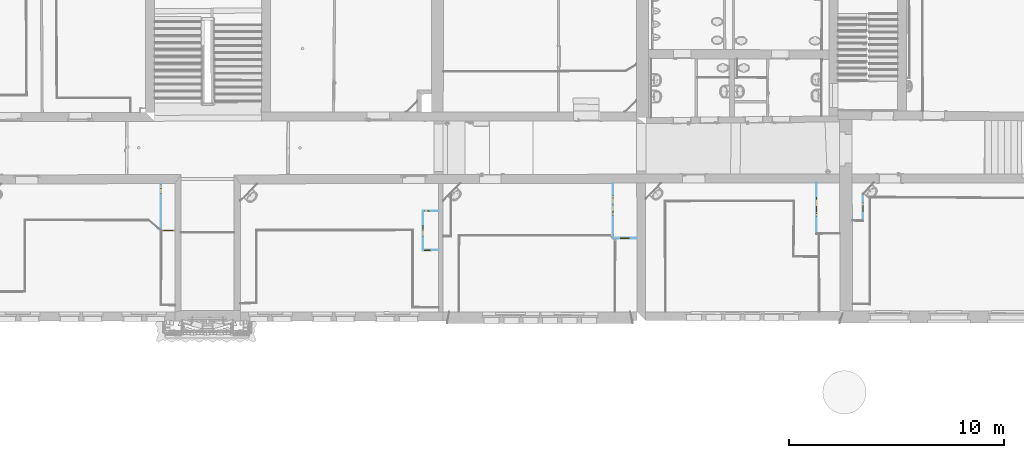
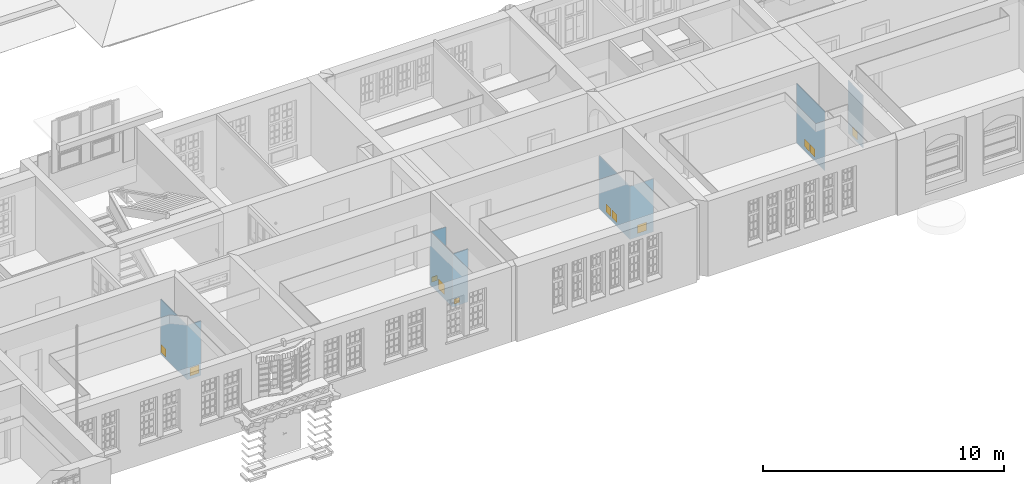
# One storey, part 88 of 158: 11 doors, 11 openings, plus 9 elements that do not belong to this part.
"""IFC2X3 building model written with IfcOpenShell, lengths in metres."""

from ifc_helpers import new_model, entity, si_unit, converted_unit, derived_unit, money_unit, direction, frame, origin_with_axes, origin_2d_with_axis, place, context, subcontext, project, spatial, polyline, rectangle, outline, extrude, faceted_brep, material, layer, layer_set, layer_usage, type_object, element, fill, save


model = new_model("IFC2X3")

# Units and contexts
model_context = context("Model", 3, precision=1e-05, world=origin_with_axes(), true_north=direction((0.0, 1.0)))
body_context = subcontext(model_context, "Body", "Model", "MODEL_VIEW")
ifc_project = project(units=[si_unit("LENGTHUNIT", "METRE"), si_unit("AREAUNIT", "SQUARE_METRE"), si_unit("VOLUMEUNIT", "CUBIC_METRE"), converted_unit("PLANEANGLEUNIT", "DEGREE", entity("IfcPlaneAngleMeasure", 0.0174532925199), si_unit("PLANEANGLEUNIT", "RADIAN"), dimensions=[0, 0, 0, 0, 0, 0, 0]), money_unit("EUR"), converted_unit("TIMEUNIT", "Year", entity("IfcTimeMeasure", 31556926.0), si_unit("TIMEUNIT", "SECOND"), dimensions=[0, 0, 1, 0, 0, 0, 0]), si_unit("MASSUNIT", "GRAM", prefix="KILO"), si_unit("THERMODYNAMICTEMPERATUREUNIT", "DEGREE_CELSIUS"), si_unit("LUMINOUSINTENSITYUNIT", "LUMEN"), si_unit("ENERGYUNIT", "JOULE", prefix="MEGA"), derived_unit("THERMALCONDUCTANCEUNIT", [(si_unit("POWERUNIT", "WATT"), 1), (si_unit("LENGTHUNIT", "METRE"), -1), (si_unit("THERMODYNAMICTEMPERATUREUNIT", "KELVIN"), -1)]), derived_unit("SPECIFICHEATCAPACITYUNIT", [(si_unit("ENERGYUNIT", "JOULE"), 1), (si_unit("MASSUNIT", "GRAM", prefix="KILO"), -1), (si_unit("THERMODYNAMICTEMPERATUREUNIT", "KELVIN"), -1)]), derived_unit("MASSDENSITYUNIT", [(si_unit("MASSUNIT", "GRAM", prefix="KILO"), 1), (si_unit("VOLUMEUNIT", "CUBIC_METRE"), -1)])], contexts=[model_context])

# Site, building, storey
site_placement = place(None, origin_with_axes())
site = spatial("IfcSite", under=ifc_project, at=site_placement, Name="Gelände", CompositionType="ELEMENT")
building_placement = place(site_placement, origin_with_axes())
building = spatial("IfcBuilding", under=site, at=building_placement, Name="Gebäude", CompositionType="ELEMENT")
storey_placement = place(building_placement, origin_with_axes())
storey = spatial("IfcBuildingStorey", under=building, at=storey_placement, Name="ERDGESCHOSS", CompositionType="ELEMENT", Elevation=0.0)

# Wall, opening, door
ifc_material = material(Name="43_Gipskarton")
ifc_layer = layer(ifc_material, 0.03, ventilated="UNKNOWN")
ifc_layer_set = layer_set([ifc_layer], Name="43_Gipskarton 0.03")
ifc_layer_usage_1 = layer_usage(ifc_layer_set, "AXIS2", "NEGATIVE", 0.03)
wall_type = type_object("IfcWallType", Name="43_Gipskarton 30", PredefinedType="ELEMENTEDWALL")
wall_1_placement = place(storey_placement, frame((2.61746169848, 13.2516021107, -0.1), z_axis=(0.0, 0.0, 1.0), x_axis=(0.9998155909, 0.0192037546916, 0.0)))
wall_1 = element("IfcWallStandardCase", 1, at=wall_1_placement, inside=storey, type_object=wall_type, material=ifc_layer_usage_1, Name="Wand-032", ObjectType="ELEMENTEDWALL", context=body_context, shape_type="SweptSolid", body=[
    extrude(outline(polyline([(0.0, 0.0), (0.738593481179, 0.0), (0.739177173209, 0.03), (0.0304233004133, 0.03), (0.0, 0.0)])), origin_with_axes(), (0.0, 0.0, 1.0), 2.68),
])
opening_1_placement = place(wall_1_placement, frame((0.199169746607, 0.0, 0.127277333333), z_axis=(0.0, 0.0, 1.0), x_axis=(1.0, 0.0, 0.0)))
opening_1 = element("IfcOpeningElement", 2, at=opening_1_placement, cuts=wall_1, Name="Tür-022", context=body_context, shape_type="SweptSolid", body=[
    extrude(rectangle(XDim=0.255160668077, YDim=0.24614, at=origin_2d_with_axis()), frame((0.0, -0.03, 0.12307), z_axis=(0.0, -1.0, 0.0), x_axis=(1.0, 0.0, 0.0)), (0.0, 0.0, -1.0), 0.09),
])
door_style_1 = type_object("IfcDoorStyle", Name="Blockrahmentür 1-Fl 25", ConstructionType="NOTDEFINED", OperationType="SINGLE_SWING_LEFT", ParameterTakesPrecedence=False, Sizeable=False)
door_1_placement = place(opening_1_placement, frame((0.122580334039, 0.0, 0.0), z_axis=(0.0, 0.0, 1.0), x_axis=(-1.0, 0.0, 0.0)))
door_1 = element("IfcDoor", 3, at=door_1_placement, inside=storey, type_object=door_style_1, Name="Tür-022", ObjectType="NOTDEFINED", OverallHeight=0.24614, OverallWidth=0.255161, context=body_context, shape_type="Brep", body=[
    faceted_brep([(-0.005, -0.03, 0.0), (-0.015, -0.03, 0.0), (-0.015, 0.0, 0.0), (-0.005, 0.0, 0.0), (-0.005, -0.03, 0.24614), (0.250160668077, -0.03, 0.24614), (0.250160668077, -0.03, 0.0), (0.260160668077, -0.03, 0.0), (0.260160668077, -0.03, 0.25614), (0.107480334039, -0.03, 0.25614), (0.0224803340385, -0.03, 0.25614), (-0.015, -0.03, 0.25614), (-0.015, 0.0, 0.25614), (0.0224803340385, 0.0, 0.25614), (0.107480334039, 0.0, 0.25614), (0.260160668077, 0.0, 0.25614), (0.260160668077, 0.0, 0.0), (0.250160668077, 0.0, 0.0), (0.250160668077, 0.0, 0.24614), (-0.005, 0.0, 0.24614)], [[[0, 1, 2, 3]], [[0, 4, 5, 6, 7, 8, 9, 10, 11, 1]], [[1, 11, 12, 2]], [[3, 2, 12, 13, 14, 15, 16, 17, 18, 19]], [[4, 0, 3, 19]], [[5, 4, 19, 18]], [[6, 5, 18, 17]], [[7, 6, 17, 16]], [[8, 7, 16, 15]], [[9, 8, 15, 14]], [[10, 9, 14, 13]], [[11, 10, 13, 12]]]),
    faceted_brep([(-0.015, 0.0, 0.0), (-0.015, 0.0, 0.25614), (0.260160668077, 0.0, 0.25614), (0.260160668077, 0.0, 0.0), (-0.015, -0.03, 0.0), (-0.015, -0.03, 0.25614), (0.260160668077, -0.03, 0.25614), (0.260160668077, -0.03, 0.0)], [[[0, 1, 2, 3]], [[0, 4, 5, 1]], [[1, 5, 6, 2]], [[2, 6, 7, 3]], [[3, 7, 4, 0]], [[7, 6, 5, 4]]]),
])
fill(opening_1, door_1)

# Wall, openings, doors
ifc_layer_usage_2 = layer_usage(ifc_layer_set, "AXIS2", "NEGATIVE", 0.03)
wall_2_placement = place(storey_placement, frame((11.433919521, 16.8029035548, -0.1), z_axis=(0.0, 0.0, 1.0), x_axis=(-0.00157695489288, -0.999998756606, 0.0)))
wall_2 = element("IfcWallStandardCase", 4, at=wall_2_placement, inside=storey, type_object=wall_type, material=ifc_layer_usage_2, Name="Wand-032", ObjectType="ELEMENTEDWALL", context=body_context, shape_type="SweptSolid", body=[
    extrude(outline(polyline([(0.420002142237, 0.0), (2.9872256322, 0.0), (2.95715626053, 0.03), (0.41990632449, 0.03), (0.420002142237, 0.0)])), origin_with_axes(), (0.0, 0.0, 1.0), 2.675),
])
opening_2_placement = place(wall_2_placement, frame((1.18915228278, 0.0, 0.185699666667), z_axis=(0.0, 0.0, 1.0), x_axis=(1.0, 0.0, 0.0)))
opening_2 = element("IfcOpeningElement", 5, at=opening_2_placement, cuts=wall_2, Name="Tür-022", context=body_context, shape_type="SweptSolid", body=[
    extrude(rectangle(XDim=0.397609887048, YDim=0.396051, at=origin_2d_with_axis()), frame((0.0, -0.03, 0.1980255), z_axis=(0.0, 1.0, 0.0), x_axis=(-1.0, 0.0, 0.0)), (0.0, 0.0, 1.0), 0.09),
])
opening_3_placement = place(wall_2_placement, frame((1.69003171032, 0.0, 0.182942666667), z_axis=(0.0, 0.0, 1.0), x_axis=(1.0, 0.0, 0.0)))
opening_3 = element("IfcOpeningElement", 6, at=opening_3_placement, cuts=wall_2, Name="Tür-022", context=body_context, shape_type="SweptSolid", body=[
    extrude(rectangle(XDim=0.397966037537, YDim=0.397411, at=origin_2d_with_axis()), frame((0.0, -0.03, 0.1987055), z_axis=(0.0, -1.0, 0.0), x_axis=(1.0, 0.0, 0.0)), (0.0, 0.0, -1.0), 0.09),
])
door_2_placement = place(opening_3_placement, frame((0.193983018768, 0.0, 0.0), z_axis=(0.0, 0.0, 1.0), x_axis=(-1.0, 0.0, 0.0)))
door_2 = element("IfcDoor", 7, at=door_2_placement, inside=storey, type_object=door_style_1, Name="Tür-022", ObjectType="NOTDEFINED", OverallHeight=0.397411, OverallWidth=0.397966, context=body_context, shape_type="Brep", body=[
    faceted_brep([(-0.005, -0.03, 0.0), (-0.015, -0.03, 0.0), (-0.015, 0.0, 0.0), (-0.005, 0.0, 0.0), (-0.005, -0.03, 0.397411), (0.392966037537, -0.03, 0.397411), (0.392966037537, -0.03, 0.0), (0.402966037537, -0.03, 0.0), (0.402966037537, -0.03, 0.407411), (0.178883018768, -0.03, 0.407411), (0.0938830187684, -0.03, 0.407411), (-0.015, -0.03, 0.407411), (-0.015, 0.0, 0.407411), (0.0938830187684, 0.0, 0.407411), (0.178883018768, 0.0, 0.407411), (0.402966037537, 0.0, 0.407411), (0.402966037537, 0.0, 0.0), (0.392966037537, 0.0, 0.0), (0.392966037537, 0.0, 0.397411), (-0.005, 0.0, 0.397411)], [[[0, 1, 2, 3]], [[0, 4, 5, 6, 7, 8, 9, 10, 11, 1]], [[1, 11, 12, 2]], [[3, 2, 12, 13, 14, 15, 16, 17, 18, 19]], [[4, 0, 3, 19]], [[5, 4, 19, 18]], [[6, 5, 18, 17]], [[7, 6, 17, 16]], [[8, 7, 16, 15]], [[9, 8, 15, 14]], [[10, 9, 14, 13]], [[11, 10, 13, 12]]]),
    faceted_brep([(-0.015, 0.0, 0.0), (-0.015, 0.0, 0.407411), (0.402966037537, 0.0, 0.407411), (0.402966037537, 0.0, 0.0), (-0.015, -0.03, 0.0), (-0.015, -0.03, 0.407411), (0.402966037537, -0.03, 0.407411), (0.402966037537, -0.03, 0.0)], [[[0, 1, 2, 3]], [[0, 4, 5, 1]], [[1, 5, 6, 2]], [[2, 6, 7, 3]], [[3, 7, 4, 0]], [[7, 6, 5, 4]]]),
])
fill(opening_3, door_2)
door_style_2 = type_object("IfcDoorStyle", Name="Blockrahmentür 1-Fl 25", ConstructionType="NOTDEFINED", OperationType="SINGLE_SWING_RIGHT", ParameterTakesPrecedence=False, Sizeable=False)
door_3_placement = place(opening_2_placement, frame((0.193804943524, 0.0, 0.0), z_axis=(0.0, 0.0, 1.0), x_axis=(-1.0, 0.0, 0.0)))
door_3 = element("IfcDoor", 8, at=door_3_placement, inside=storey, type_object=door_style_2, Name="Tür-022", ObjectType="NOTDEFINED", OverallHeight=0.396051, OverallWidth=0.39761, context=body_context, shape_type="Brep", body=[
    faceted_brep([(0.392609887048, -0.03, 0.0), (0.392609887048, 0.0, 0.0), (0.402609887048, 0.0, 0.0), (0.402609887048, -0.03, 0.0), (0.392609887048, -0.03, 0.396051), (0.392609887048, 0.0, 0.396051), (-0.005, 0.0, 0.396051), (-0.005, 0.0, 0.0), (-0.015, 0.0, 0.0), (-0.015, 0.0, 0.406051), (0.208904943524, 0.0, 0.406051), (0.293904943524, 0.0, 0.406051), (0.402609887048, 0.0, 0.406051), (0.402609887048, -0.03, 0.406051), (0.293904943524, -0.03, 0.406051), (0.208904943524, -0.03, 0.406051), (-0.015, -0.03, 0.406051), (-0.015, -0.03, 0.0), (-0.005, -0.03, 0.0), (-0.005, -0.03, 0.396051)], [[[0, 1, 2, 3]], [[4, 5, 1, 0]], [[1, 5, 6, 7, 8, 9, 10, 11, 12, 2]], [[3, 2, 12, 13]], [[0, 3, 13, 14, 15, 16, 17, 18, 19, 4]], [[19, 6, 5, 4]], [[18, 7, 6, 19]], [[17, 8, 7, 18]], [[16, 9, 8, 17]], [[15, 10, 9, 16]], [[14, 11, 10, 15]], [[13, 12, 11, 14]]]),
    faceted_brep([(0.402609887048, 0.0, 0.0), (-0.015, 0.0, 0.0), (-0.015, 0.0, 0.406051), (0.402609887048, 0.0, 0.406051), (0.402609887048, -0.03, 0.0), (-0.015, -0.03, 0.0), (-0.015, -0.03, 0.406051), (0.402609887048, -0.03, 0.406051)], [[[0, 1, 2, 3]], [[1, 0, 4, 5]], [[2, 1, 5, 6]], [[3, 2, 6, 7]], [[0, 3, 7, 4]], [[5, 4, 7, 6]]]),
])
fill(opening_2, door_3)

# Wall, opening, door
ifc_layer_usage_3 = layer_usage(ifc_layer_set, "AXIS2", "NEGATIVE", 0.03)
wall_3_placement = place(storey_placement, frame((3.55637992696, 15.1168848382, -0.1), z_axis=(0.0, 0.0, 1.0), x_axis=(-0.999998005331, -0.00199733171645, 0.0)))
wall_3 = element("IfcWallStandardCase", 9, at=wall_3_placement, inside=storey, type_object=wall_type, material=ifc_layer_usage_3, Name="Wand-032", ObjectType="ELEMENTEDWALL", context=body_context, shape_type="SweptSolid", body=[
    extrude(outline(polyline([(0.200000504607, 0.0), (0.948598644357, 0.0), (0.918502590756, 0.03), (0.200067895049, 0.03), (0.200000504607, 0.0)])), origin_with_axes(), (0.0, 0.0, 1.0), 2.68),
])
opening_4_placement = place(wall_3_placement, frame((0.746464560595, 0.0, 0.127693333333), z_axis=(0.0, 0.0, 1.0), x_axis=(1.0, 0.0, 0.0)))
opening_4 = element("IfcOpeningElement", 10, at=opening_4_placement, cuts=wall_3, Name="Tür-022", context=body_context, shape_type="SweptSolid", body=[
    extrude(rectangle(XDim=0.251016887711, YDim=0.247427, at=origin_2d_with_axis()), frame((0.0, -0.03, 0.1237135), z_axis=(0.0, 1.0, 0.0), x_axis=(-1.0, 0.0, 0.0)), (0.0, 0.0, 1.0), 0.09),
])
door_4_placement = place(opening_4_placement, frame((0.120508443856, 0.0, 0.0), z_axis=(0.0, 0.0, 1.0), x_axis=(-1.0, 0.0, 0.0)))
door_4 = element("IfcDoor", 11, at=door_4_placement, inside=storey, type_object=door_style_2, Name="Tür-022", ObjectType="NOTDEFINED", OverallHeight=0.247427, OverallWidth=0.251017, context=body_context, shape_type="Brep", body=[
    faceted_brep([(0.246016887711, -0.03, 0.0), (0.246016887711, 0.0, 0.0), (0.256016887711, 0.0, 0.0), (0.256016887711, -0.03, 0.0), (0.246016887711, -0.03, 0.247427), (0.246016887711, 0.0, 0.247427), (-0.005, 0.0, 0.247427), (-0.005, 0.0, 0.0), (-0.015, 0.0, 0.0), (-0.015, 0.0, 0.257427), (0.135608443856, 0.0, 0.257427), (0.220608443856, 0.0, 0.257427), (0.256016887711, 0.0, 0.257427), (0.256016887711, -0.03, 0.257427), (0.220608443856, -0.03, 0.257427), (0.135608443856, -0.03, 0.257427), (-0.015, -0.03, 0.257427), (-0.015, -0.03, 0.0), (-0.005, -0.03, 0.0), (-0.005, -0.03, 0.247427)], [[[0, 1, 2, 3]], [[4, 5, 1, 0]], [[1, 5, 6, 7, 8, 9, 10, 11, 12, 2]], [[3, 2, 12, 13]], [[0, 3, 13, 14, 15, 16, 17, 18, 19, 4]], [[19, 6, 5, 4]], [[18, 7, 6, 19]], [[17, 8, 7, 18]], [[16, 9, 8, 17]], [[15, 10, 9, 16]], [[14, 11, 10, 15]], [[13, 12, 11, 14]]]),
    faceted_brep([(0.256016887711, 0.0, 0.0), (-0.015, 0.0, 0.0), (-0.015, 0.0, 0.257427), (0.256016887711, 0.0, 0.257427), (0.256016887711, -0.03, 0.0), (-0.015, -0.03, 0.0), (-0.015, -0.03, 0.257427), (0.256016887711, -0.03, 0.257427)], [[[0, 1, 2, 3]], [[1, 0, 4, 5]], [[2, 1, 5, 6]], [[3, 2, 6, 7]], [[0, 3, 7, 4]], [[5, 4, 7, 6]]]),
])
fill(opening_4, door_4)

ifc_layer_usage_4 = layer_usage(ifc_layer_set, "AXIS2", "NEGATIVE", 0.03)
wall_4_placement = place(storey_placement, frame((2.60778317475, 15.114990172, -0.1), z_axis=(0.0, 0.0, 1.0), x_axis=(0.00519397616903, -0.999986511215, 0.0)))
wall_4 = element("IfcWallStandardCase", 12, at=wall_4_placement, inside=storey, type_object=wall_type, material=ifc_layer_usage_4, Name="Wand-032", ObjectType="ELEMENTEDWALL", context=body_context, shape_type="SweptSolid", body=[
    extrude(outline(polyline([(0.0, 0.0), (1.86341319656, 0.0), (1.83298989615, 0.03), (0.0300960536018, 0.03), (0.0, 0.0)])), origin_with_axes(), (0.0, 0.0, 1.0), 2.68),
])
opening_5_placement = place(wall_4_placement, frame((0.940618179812, 0.0, 0.233793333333), z_axis=(0.0, 0.0, 1.0), x_axis=(1.0, 0.0, 0.0)))
opening_5 = element("IfcOpeningElement", 13, at=opening_5_placement, cuts=wall_4, Name="Tür-022", context=body_context, shape_type="SweptSolid", body=[
    extrude(rectangle(XDim=0.496701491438, YDim=0.48975, at=origin_2d_with_axis()), frame((0.0, -0.03, 0.244875), z_axis=(0.0, 1.0, 0.0), x_axis=(-1.0, 0.0, 0.0)), (0.0, 0.0, 1.0), 0.09),
])
door_5_placement = place(opening_5_placement, frame((0.243350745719, 0.0, 0.0), z_axis=(0.0, 0.0, 1.0), x_axis=(-1.0, 0.0, 0.0)))
door_5 = element("IfcDoor", 14, at=door_5_placement, inside=storey, type_object=door_style_2, Name="Tür-022", ObjectType="NOTDEFINED", OverallHeight=0.48975, OverallWidth=0.496701, context=body_context, shape_type="Brep", body=[
    faceted_brep([(0.491701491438, -0.03, 0.0), (0.491701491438, 0.0, 0.0), (0.501701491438, 0.0, 0.0), (0.501701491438, -0.03, 0.0), (0.491701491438, -0.03, 0.48975), (0.491701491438, 0.0, 0.48975), (-0.005, 0.0, 0.48975), (-0.005, 0.0, 0.0), (-0.015, 0.0, 0.0), (-0.015, 0.0, 0.49975), (0.258450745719, 0.0, 0.49975), (0.343450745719, 0.0, 0.49975), (0.501701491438, 0.0, 0.49975), (0.501701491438, -0.03, 0.49975), (0.343450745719, -0.03, 0.49975), (0.258450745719, -0.03, 0.49975), (-0.015, -0.03, 0.49975), (-0.015, -0.03, 0.0), (-0.005, -0.03, 0.0), (-0.005, -0.03, 0.48975)], [[[0, 1, 2, 3]], [[4, 5, 1, 0]], [[1, 5, 6, 7, 8, 9, 10, 11, 12, 2]], [[3, 2, 12, 13]], [[0, 3, 13, 14, 15, 16, 17, 18, 19, 4]], [[19, 6, 5, 4]], [[18, 7, 6, 19]], [[17, 8, 7, 18]], [[16, 9, 8, 17]], [[15, 10, 9, 16]], [[14, 11, 10, 15]], [[13, 12, 11, 14]]]),
    faceted_brep([(0.501701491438, 0.0, 0.0), (-0.015, 0.0, 0.0), (-0.015, 0.0, 0.49975), (0.501701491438, 0.0, 0.49975), (0.501701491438, -0.03, 0.0), (-0.015, -0.03, 0.0), (-0.015, -0.03, 0.49975), (0.501701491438, -0.03, 0.49975)], [[[0, 1, 2, 3]], [[1, 0, 4, 5]], [[2, 1, 5, 6]], [[3, 2, 6, 7]], [[0, 3, 7, 4]], [[5, 4, 7, 6]]]),
])
fill(opening_5, door_5)

ifc_layer_usage_5 = layer_usage(ifc_layer_set, "AXIS2", "NEGATIVE", 0.03)
wall_5_placement = place(storey_placement, frame((11.429208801, 13.8156816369, -0.1), z_axis=(0.0, 0.0, 1.0), x_axis=(0.99999973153, 0.000732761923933, 0.0)))
wall_5 = element("IfcWallStandardCase", 15, at=wall_5_placement, inside=storey, type_object=wall_type, material=ifc_layer_usage_5, Name="Wand-032", ObjectType="ELEMENTEDWALL", context=body_context, shape_type="SweptSolid", body=[
    extrude(outline(polyline([(0.0, 0.0), (1.12515762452, 0.0), (1.12515222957, 0.03), (0.0300693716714, 0.03), (0.0, 0.0)])), origin_with_axes(), (0.0, 0.0, 1.0), 2.675),
])
opening_6_placement = place(wall_5_placement, frame((0.572615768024, 0.0, 0.183988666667), z_axis=(0.0, 0.0, 1.0), x_axis=(1.0, 0.0, 0.0)))
opening_6 = element("IfcOpeningElement", 16, at=opening_6_placement, cuts=wall_5, Name="Tür-022", context=body_context, shape_type="SweptSolid", body=[
    extrude(rectangle(XDim=0.395630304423, YDim=0.407348, at=origin_2d_with_axis()), frame((0.0, -0.03, 0.203674), z_axis=(0.0, -1.0, 0.0), x_axis=(1.0, 0.0, 0.0)), (0.0, 0.0, -1.0), 0.09),
])
door_6_placement = place(opening_6_placement, frame((0.192815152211, 0.0, 0.0), z_axis=(0.0, 0.0, 1.0), x_axis=(-1.0, 0.0, 0.0)))
door_6 = element("IfcDoor", 17, at=door_6_placement, inside=storey, type_object=door_style_1, Name="Tür-022", ObjectType="NOTDEFINED", OverallHeight=0.407348, OverallWidth=0.39563, context=body_context, shape_type="Brep", body=[
    faceted_brep([(-0.005, -0.03, 0.0), (-0.015, -0.03, 0.0), (-0.015, 0.0, 0.0), (-0.005, 0.0, 0.0), (-0.005, -0.03, 0.407348), (0.390630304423, -0.03, 0.407348), (0.390630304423, -0.03, 0.0), (0.400630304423, -0.03, 0.0), (0.400630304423, -0.03, 0.417348), (0.177715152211, -0.03, 0.417348), (0.0927151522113, -0.03, 0.417348), (-0.015, -0.03, 0.417348), (-0.015, 0.0, 0.417348), (0.0927151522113, 0.0, 0.417348), (0.177715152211, 0.0, 0.417348), (0.400630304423, 0.0, 0.417348), (0.400630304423, 0.0, 0.0), (0.390630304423, 0.0, 0.0), (0.390630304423, 0.0, 0.407348), (-0.005, 0.0, 0.407348)], [[[0, 1, 2, 3]], [[0, 4, 5, 6, 7, 8, 9, 10, 11, 1]], [[1, 11, 12, 2]], [[3, 2, 12, 13, 14, 15, 16, 17, 18, 19]], [[4, 0, 3, 19]], [[5, 4, 19, 18]], [[6, 5, 18, 17]], [[7, 6, 17, 16]], [[8, 7, 16, 15]], [[9, 8, 15, 14]], [[10, 9, 14, 13]], [[11, 10, 13, 12]]]),
    faceted_brep([(-0.015, 0.0, 0.0), (-0.015, 0.0, 0.417348), (0.400630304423, 0.0, 0.417348), (0.400630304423, 0.0, 0.0), (-0.015, -0.03, 0.0), (-0.015, -0.03, 0.417348), (0.400630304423, -0.03, 0.417348), (0.400630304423, -0.03, 0.0)], [[[0, 1, 2, 3]], [[0, 4, 5, 1]], [[1, 5, 6, 2]], [[2, 6, 7, 3]], [[3, 7, 4, 0]], [[7, 6, 5, 4]]]),
])
fill(opening_6, door_6)

# Wall, openings, doors
ifc_layer_usage_6 = layer_usage(ifc_layer_set, "AXIS2", "NEGATIVE", 0.0)
wall_6_placement = place(storey_placement, frame((20.8793079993, 14.0239447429, -0.08), z_axis=(0.0, 0.0, 1.0), x_axis=(0.00447703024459, 0.99998997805, 0.0)))
wall_6 = element("IfcWallStandardCase", 18, at=wall_6_placement, inside=storey, type_object=wall_type, material=ifc_layer_usage_6, Name="Wand-032", ObjectType="ELEMENTEDWALL", context=body_context, shape_type="SweptSolid", body=[
    extrude(outline(polyline([(0.0303463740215, -0.03), (2.37445488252, -0.03), (2.37427206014, 0.0), (0.0, 0.0), (0.0303463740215, -0.03)])), origin_with_axes(), (0.0, 0.0, 1.0), 2.99),
])
opening_7_placement = place(wall_6_placement, frame((1.50527018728, 0.0, 0.212121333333), z_axis=(0.0, 0.0, 1.0), x_axis=(1.0, 0.0, 0.0)))
opening_7 = element("IfcOpeningElement", 19, at=opening_7_placement, cuts=wall_6, Name="Tür-022", context=body_context, shape_type="SweptSolid", body=[
    extrude(rectangle(XDim=0.403525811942, YDim=0.394103, at=origin_2d_with_axis()), frame((0.0, 0.03, 0.1970515), z_axis=(0.0, -1.0, 0.0), x_axis=(1.0, 0.0, 0.0)), (0.0, 0.0, 1.0), 0.09),
])
opening_8_placement = place(wall_6_placement, frame((1.04925200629, 0.0, 0.210440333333), z_axis=(0.0, 0.0, 1.0), x_axis=(1.0, 0.0, 0.0)))
opening_8 = element("IfcOpeningElement", 20, at=opening_8_placement, cuts=wall_6, Name="Tür-022", context=body_context, shape_type="SweptSolid", body=[
    extrude(rectangle(XDim=0.40395194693, YDim=0.395277, at=origin_2d_with_axis()), frame((0.0, 0.03, 0.1976385), z_axis=(0.0, 1.0, 0.0), x_axis=(-1.0, 0.0, 0.0)), (0.0, 0.0, -1.0), 0.09),
])
door_7_placement = place(opening_8_placement, frame((-0.196975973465, 0.0, 0.0), z_axis=(0.0, 0.0, 1.0), x_axis=(1.0, 0.0, 0.0)))
door_7 = element("IfcDoor", 21, at=door_7_placement, inside=storey, type_object=door_style_1, Name="Tür-022", ObjectType="NOTDEFINED", OverallHeight=0.395277, OverallWidth=0.403952, context=body_context, shape_type="Brep", body=[
    faceted_brep([(-0.005, -0.03, 0.0), (-0.015, -0.03, 0.0), (-0.015, 0.0, 0.0), (-0.005, 0.0, 0.0), (-0.005, -0.03, 0.395277), (0.39895194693, -0.03, 0.395277), (0.39895194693, -0.03, 0.0), (0.40895194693, -0.03, 0.0), (0.40895194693, -0.03, 0.405277), (0.181875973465, -0.03, 0.405277), (0.096875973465, -0.03, 0.405277), (-0.015, -0.03, 0.405277), (-0.015, 0.0, 0.405277), (0.096875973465, 0.0, 0.405277), (0.181875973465, 0.0, 0.405277), (0.40895194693, 0.0, 0.405277), (0.40895194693, 0.0, 0.0), (0.39895194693, 0.0, 0.0), (0.39895194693, 0.0, 0.395277), (-0.005, 0.0, 0.395277)], [[[0, 1, 2, 3]], [[0, 4, 5, 6, 7, 8, 9, 10, 11, 1]], [[1, 11, 12, 2]], [[3, 2, 12, 13, 14, 15, 16, 17, 18, 19]], [[4, 0, 3, 19]], [[5, 4, 19, 18]], [[6, 5, 18, 17]], [[7, 6, 17, 16]], [[8, 7, 16, 15]], [[9, 8, 15, 14]], [[10, 9, 14, 13]], [[11, 10, 13, 12]]]),
    faceted_brep([(-0.015, 0.0, 0.0), (-0.015, 0.0, 0.405277), (0.40895194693, 0.0, 0.405277), (0.40895194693, 0.0, 0.0), (-0.015, -0.03, 0.0), (-0.015, -0.03, 0.405277), (0.40895194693, -0.03, 0.405277), (0.40895194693, -0.03, 0.0)], [[[0, 1, 2, 3]], [[0, 4, 5, 1]], [[1, 5, 6, 2]], [[2, 6, 7, 3]], [[3, 7, 4, 0]], [[7, 6, 5, 4]]]),
])
fill(opening_8, door_7)
door_8_placement = place(opening_7_placement, frame((-0.196762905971, 0.0, 0.0), z_axis=(0.0, 0.0, 1.0), x_axis=(1.0, 0.0, 0.0)))
door_8 = element("IfcDoor", 22, at=door_8_placement, inside=storey, type_object=door_style_2, Name="Tür-022", ObjectType="NOTDEFINED", OverallHeight=0.394103, OverallWidth=0.403526, context=body_context, shape_type="Brep", body=[
    faceted_brep([(0.398525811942, -0.03, 0.0), (0.398525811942, 0.0, 0.0), (0.408525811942, 0.0, 0.0), (0.408525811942, -0.03, 0.0), (0.398525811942, -0.03, 0.394103), (0.398525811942, 0.0, 0.394103), (-0.005, 0.0, 0.394103), (-0.005, 0.0, 0.0), (-0.015, 0.0, 0.0), (-0.015, 0.0, 0.404103), (0.211862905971, 0.0, 0.404103), (0.296862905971, 0.0, 0.404103), (0.408525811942, 0.0, 0.404103), (0.408525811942, -0.03, 0.404103), (0.296862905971, -0.03, 0.404103), (0.211862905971, -0.03, 0.404103), (-0.015, -0.03, 0.404103), (-0.015, -0.03, 0.0), (-0.005, -0.03, 0.0), (-0.005, -0.03, 0.394103)], [[[0, 1, 2, 3]], [[4, 5, 1, 0]], [[1, 5, 6, 7, 8, 9, 10, 11, 12, 2]], [[3, 2, 12, 13]], [[0, 3, 13, 14, 15, 16, 17, 18, 19, 4]], [[19, 6, 5, 4]], [[18, 7, 6, 19]], [[17, 8, 7, 18]], [[16, 9, 8, 17]], [[15, 10, 9, 16]], [[14, 11, 10, 15]], [[13, 12, 11, 14]]]),
    faceted_brep([(0.408525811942, 0.0, 0.0), (-0.015, 0.0, 0.0), (-0.015, 0.0, 0.404103), (0.408525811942, 0.0, 0.404103), (0.408525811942, -0.03, 0.0), (-0.015, -0.03, 0.0), (-0.015, -0.03, 0.404103), (0.408525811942, -0.03, 0.404103)], [[[0, 1, 2, 3]], [[1, 0, 4, 5]], [[2, 1, 5, 6]], [[3, 2, 6, 7]], [[0, 3, 7, 4]], [[5, 4, 7, 6]]]),
])
fill(opening_7, door_8)

# Wall, opening, door
ifc_layer_usage_7 = layer_usage(ifc_layer_set, "AXIS2", "NEGATIVE", 0.0)
wall_7_placement = place(storey_placement, frame((23.0800070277, 15.8782238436, -0.03), z_axis=(0.0, 0.0, 1.0), x_axis=(-0.0108768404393, -0.999940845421, 0.0)))
wall_7 = element("IfcWallStandardCase", 23, at=wall_7_placement, inside=storey, type_object=wall_type, material=ifc_layer_usage_7, Name="Wand-033", ObjectType="ELEMENTEDWALL", context=body_context, shape_type="SweptSolid", body=[
    extrude(outline(polyline([(-0.0118052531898, -0.03), (1.22504153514, -0.03), (1.25526935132, 0.0), (0.0, 0.0), (-0.0118052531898, -0.03)])), origin_with_axes(), (0.0, 0.0, 1.0), 2.67),
])
opening_9_placement = place(wall_7_placement, frame((0.613285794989, 0.0, 0.128382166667), z_axis=(0.0, 0.0, 1.0), x_axis=(1.0, 0.0, 0.0)))
opening_9 = element("IfcOpeningElement", 24, at=opening_9_placement, cuts=wall_7, Name="Brandschutzklappe", context=body_context, shape_type="SweptSolid", body=[
    extrude(rectangle(XDim=0.40203690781, YDim=0.401117, at=origin_2d_with_axis()), frame((0.0, 0.03, 0.2005585), z_axis=(0.0, 1.0, 0.0), x_axis=(-1.0, 0.0, 0.0)), (0.0, 0.0, -1.0), 0.09),
])
door_9_placement = place(opening_9_placement, frame((-0.196018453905, 0.0, 0.0), z_axis=(0.0, 0.0, 1.0), x_axis=(1.0, 0.0, 0.0)))
door_9 = element("IfcDoor", 25, at=door_9_placement, inside=storey, type_object=door_style_1, Name="Brandschutzklappe", ObjectType="NOTDEFINED", OverallHeight=0.401117, OverallWidth=0.402037, context=body_context, shape_type="Brep", body=[
    faceted_brep([(-0.005, -0.03, 0.0), (-0.015, -0.03, 0.0), (-0.015, 0.0, 0.0), (-0.005, 0.0, 0.0), (-0.005, -0.03, 0.401117), (0.39703690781, -0.03, 0.401117), (0.39703690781, -0.03, 0.0), (0.40703690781, -0.03, 0.0), (0.40703690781, -0.03, 0.411117), (0.180918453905, -0.03, 0.411117), (0.0959184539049, -0.03, 0.411117), (-0.015, -0.03, 0.411117), (-0.015, 0.0, 0.411117), (0.0959184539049, 0.0, 0.411117), (0.180918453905, 0.0, 0.411117), (0.40703690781, 0.0, 0.411117), (0.40703690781, 0.0, 0.0), (0.39703690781, 0.0, 0.0), (0.39703690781, 0.0, 0.401117), (-0.005, 0.0, 0.401117)], [[[0, 1, 2, 3]], [[0, 4, 5, 6, 7, 8, 9, 10, 11, 1]], [[1, 11, 12, 2]], [[3, 2, 12, 13, 14, 15, 16, 17, 18, 19]], [[4, 0, 3, 19]], [[5, 4, 19, 18]], [[6, 5, 18, 17]], [[7, 6, 17, 16]], [[8, 7, 16, 15]], [[9, 8, 15, 14]], [[10, 9, 14, 13]], [[11, 10, 13, 12]]]),
    faceted_brep([(-0.015, 0.0, 0.0), (-0.015, 0.0, 0.411117), (0.40703690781, 0.0, 0.411117), (0.40703690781, 0.0, 0.0), (-0.015, -0.03, 0.0), (-0.015, -0.03, 0.411117), (0.40703690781, -0.03, 0.411117), (0.40703690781, -0.03, 0.0)], [[[0, 1, 2, 3]], [[0, 4, 5, 1]], [[1, 5, 6, 2]], [[2, 6, 7, 3]], [[3, 7, 4, 0]], [[7, 6, 5, 4]]]),
])
fill(opening_9, door_9)

ifc_layer_usage_8 = layer_usage(ifc_layer_set, "AXIS2", "NEGATIVE", 0.03)
wall_8_placement = place(storey_placement, frame((-9.563390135, 16.7834784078, -0.08), z_axis=(0.0, 0.0, 1.0), x_axis=(0.00328979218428, -0.999994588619, 0.0)))
wall_8 = element("IfcWallStandardCase", 26, at=wall_8_placement, inside=storey, type_object=wall_type, material=ifc_layer_usage_8, Name="Wand-033", ObjectType="ELEMENTEDWALL", context=body_context, shape_type="SweptSolid", body=[
    extrude(outline(polyline([(0.42000069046, 0.0), (2.60498825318, 0.0), (2.57522811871, 0.03), (0.420055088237, 0.03), (0.42000069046, 0.0)])), origin_with_axes(), (0.0, 0.0, 1.0), 2.755),
])
opening_10_placement = place(wall_8_placement, frame((0.669728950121, 0.0, 0.102871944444), z_axis=(0.0, 0.0, 1.0), x_axis=(1.0, 0.0, 0.0)))
opening_10 = element("IfcOpeningElement", 27, at=opening_10_placement, cuts=wall_8, Name="Tür-022", context=body_context, shape_type="SweptSolid", body=[
    extrude(rectangle(XDim=0.40005727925, YDim=0.399785, at=origin_2d_with_axis()), frame((0.0, 0.03, 0.1998925), z_axis=(0.0, -1.0, 0.0), x_axis=(-1.0, 0.0, 0.0)), (0.0, 0.0, 1.0), 0.09),
])
door_10_placement = place(opening_10_placement, frame((0.195028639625, 0.0, 0.0), z_axis=(0.0, 0.0, 1.0), x_axis=(-1.0, 0.0, 0.0)))
door_10 = element("IfcDoor", 28, at=door_10_placement, inside=storey, type_object=door_style_2, Name="Tür-022", ObjectType="NOTDEFINED", OverallHeight=0.399785, OverallWidth=0.400057, context=body_context, shape_type="Brep", body=[
    faceted_brep([(0.39505727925, -0.03, 0.0), (0.39505727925, 0.0, 0.0), (0.40505727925, 0.0, 0.0), (0.40505727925, -0.03, 0.0), (0.39505727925, -0.03, 0.399785), (0.39505727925, 0.0, 0.399785), (-0.005, 0.0, 0.399785), (-0.005, 0.0, 0.0), (-0.015, 0.0, 0.0), (-0.015, 0.0, 0.409785), (0.210128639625, 0.0, 0.409785), (0.295128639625, 0.0, 0.409785), (0.40505727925, 0.0, 0.409785), (0.40505727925, -0.03, 0.409785), (0.295128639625, -0.03, 0.409785), (0.210128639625, -0.03, 0.409785), (-0.015, -0.03, 0.409785), (-0.015, -0.03, 0.0), (-0.005, -0.03, 0.0), (-0.005, -0.03, 0.399785)], [[[0, 1, 2, 3]], [[4, 5, 1, 0]], [[1, 5, 6, 7, 8, 9, 10, 11, 12, 2]], [[3, 2, 12, 13]], [[0, 3, 13, 14, 15, 16, 17, 18, 19, 4]], [[19, 6, 5, 4]], [[18, 7, 6, 19]], [[17, 8, 7, 18]], [[16, 9, 8, 17]], [[15, 10, 9, 16]], [[14, 11, 10, 15]], [[13, 12, 11, 14]]]),
    faceted_brep([(0.40505727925, 0.0, 0.0), (-0.015, 0.0, 0.0), (-0.015, 0.0, 0.409785), (0.40505727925, 0.0, 0.409785), (0.40505727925, -0.03, 0.0), (-0.015, -0.03, 0.0), (-0.015, -0.03, 0.409785), (0.40505727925, -0.03, 0.409785)], [[[0, 1, 2, 3]], [[1, 0, 4, 5]], [[2, 1, 5, 6]], [[3, 2, 6, 7]], [[0, 3, 7, 4]], [[5, 4, 7, 6]]]),
])
fill(opening_10, door_10)

ifc_layer_usage_9 = layer_usage(ifc_layer_set, "AXIS2", "NEGATIVE", 0.03)
wall_9_placement = place(storey_placement, frame((-9.55482026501, 14.1785042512, -0.08), z_axis=(0.0, 0.0, 1.0), x_axis=(0.999988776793, -0.00473775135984, 0.0)))
wall_9 = element("IfcWallStandardCase", 29, at=wall_9_placement, inside=storey, type_object=wall_type, material=ifc_layer_usage_9, Name="Wand-034", ObjectType="ELEMENTEDWALL", context=body_context, shape_type="SweptSolid", body=[
    extrude(outline(polyline([(0.0, 0.0), (0.660952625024, 0.0), (0.660786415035, 0.03), (0.0297601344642, 0.03), (0.0, 0.0)])), origin_with_axes(), (0.0, 0.0, 1.0), 2.755),
])
opening_11_placement = place(wall_9_placement, frame((0.358039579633, 0.0, 0.152180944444), z_axis=(0.0, 0.0, 1.0), x_axis=(1.0, 0.0, 0.0)))
opening_11 = element("IfcOpeningElement", 30, at=opening_11_placement, cuts=wall_9, Name="Tür-022", context=body_context, shape_type="SweptSolid", body=[
    extrude(rectangle(XDim=0.40005727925, YDim=0.399785, at=origin_2d_with_axis()), frame((0.0, 0.03, 0.1998925), z_axis=(0.0, 1.0, 0.0), x_axis=(1.0, 0.0, 0.0)), (0.0, 0.0, -1.0), 0.09),
])
door_11_placement = place(opening_11_placement, frame((0.195028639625, 0.0, 0.0), z_axis=(0.0, 0.0, 1.0), x_axis=(-1.0, 0.0, 0.0)))
door_11 = element("IfcDoor", 31, at=door_11_placement, inside=storey, type_object=door_style_1, Name="Tür-022", ObjectType="NOTDEFINED", OverallHeight=0.399785, OverallWidth=0.400057, context=body_context, shape_type="Brep", body=[
    faceted_brep([(-0.005, -0.03, 0.0), (-0.015, -0.03, 0.0), (-0.015, 0.0, 0.0), (-0.005, 0.0, 0.0), (-0.005, -0.03, 0.399785), (0.39505727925, -0.03, 0.399785), (0.39505727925, -0.03, 0.0), (0.40505727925, -0.03, 0.0), (0.40505727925, -0.03, 0.409785), (0.179928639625, -0.03, 0.409785), (0.0949286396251, -0.03, 0.409785), (-0.015, -0.03, 0.409785), (-0.015, 0.0, 0.409785), (0.0949286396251, 0.0, 0.409785), (0.179928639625, 0.0, 0.409785), (0.40505727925, 0.0, 0.409785), (0.40505727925, 0.0, 0.0), (0.39505727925, 0.0, 0.0), (0.39505727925, 0.0, 0.399785), (-0.005, 0.0, 0.399785)], [[[0, 1, 2, 3]], [[0, 4, 5, 6, 7, 8, 9, 10, 11, 1]], [[1, 11, 12, 2]], [[3, 2, 12, 13, 14, 15, 16, 17, 18, 19]], [[4, 0, 3, 19]], [[5, 4, 19, 18]], [[6, 5, 18, 17]], [[7, 6, 17, 16]], [[8, 7, 16, 15]], [[9, 8, 15, 14]], [[10, 9, 14, 13]], [[11, 10, 13, 12]]]),
    faceted_brep([(-0.015, 0.0, 0.0), (-0.015, 0.0, 0.409785), (0.40505727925, 0.0, 0.409785), (0.40505727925, 0.0, 0.0), (-0.015, -0.03, 0.0), (-0.015, -0.03, 0.409785), (0.40505727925, -0.03, 0.409785), (0.40505727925, -0.03, 0.0)], [[[0, 1, 2, 3]], [[0, 4, 5, 1]], [[1, 5, 6, 2]], [[2, 6, 7, 3]], [[3, 7, 4, 0]], [[7, 6, 5, 4]]]),
])
fill(opening_11, door_11)

save(model, "model.ifc")
